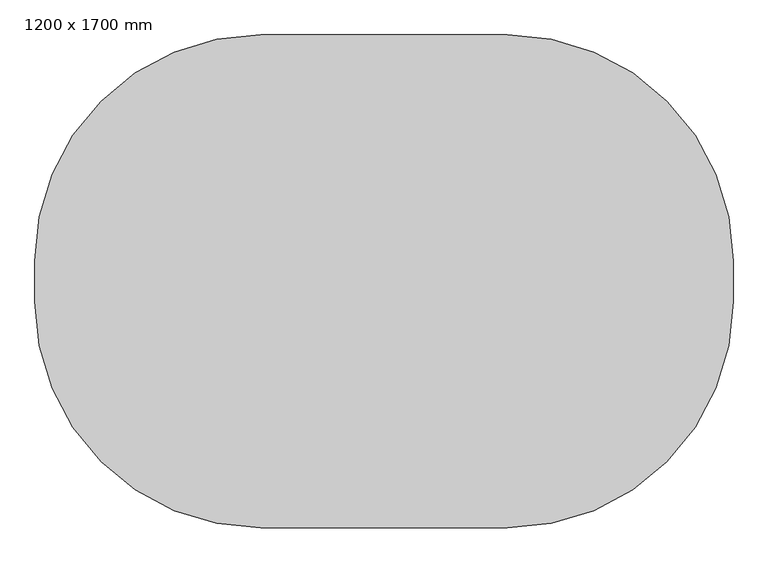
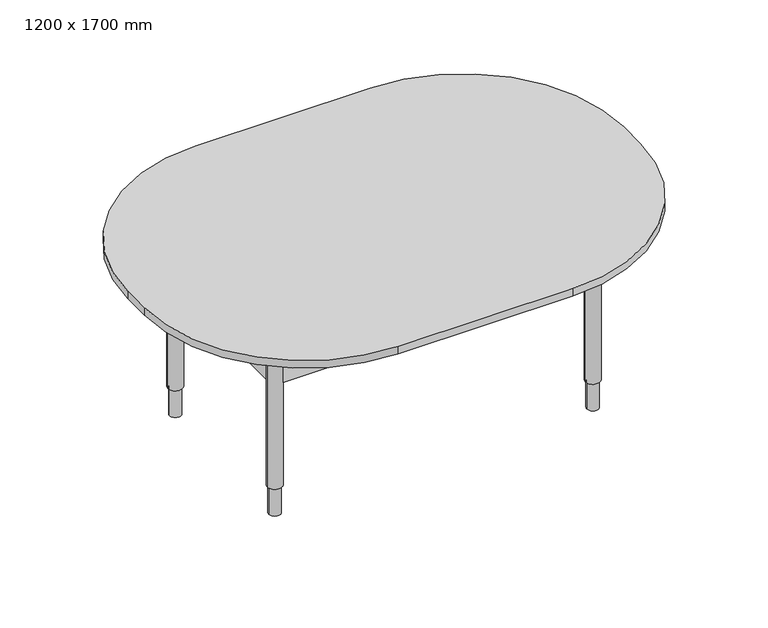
"""IFC4 building model written with IfcOpenShell, lengths in millimetres: furniture geometry, Mesa con Sillas Reuniones : 1200 x 1700 mm."""

import ifcopenshell
import ifcopenshell.guid

model = None  # the IFC model being written
_history = None  # IfcOwnerHistory: only IFC2X3 demands one
_inside = {}  # id of a spatial element -> (the spatial element, [elements in it])
_under = {}  # id of a project, library or spatial element -> (it, [spatial elements below it])
_declared = {}  # id of a project -> (the project, [libraries it declares])
_typed = {}  # id of a type object -> (the type object, [elements of that type])
_made_of = {}  # id of a material, layer set ... -> (it, [elements and type objects made of it])


def new_model(schema):
    """Start an empty IFC model of exactly this schema.

    Asked for "IFC4X3", IfcOpenShell would pick the latest addendum, in which some entities
    have other attributes; the version numbers below select the first issue.
    IFC2X3 requires an IfcOwnerHistory on every rooted entity: one is made here for all.
    """
    global model, _history
    if schema == "IFC4X3":
        model = ifcopenshell.file(schema_version=(4, 3, 0, 0))
    else:
        model = ifcopenshell.file(schema=schema)
    _inside.clear()
    _under.clear()
    _declared.clear()
    _typed.clear()
    _made_of.clear()
    _history = None
    if model.schema == "IFC2X3":
        org = make("IfcOrganization", Name="unknown")
        user = make(
            "IfcPersonAndOrganization",
            ThePerson=make("IfcPerson", FamilyName="unknown"),
            TheOrganization=org,
        )
        app = make(
            "IfcApplication",
            ApplicationDeveloper=org,
            Version="unknown",
            ApplicationFullName="unknown",
            ApplicationIdentifier="unknown",
        )
        _history = make(
            "IfcOwnerHistory",
            OwningUser=user,
            OwningApplication=app,
            ChangeAction="ADDED",
            CreationDate=0,
        )
    return model


def make(cls, **values):
    """One entity of the class cls with the attributes given. An attribute that is None is left unset."""
    return model.create_entity(
        cls, **{name: value for name, value in values.items() if value is not None}
    )


def rooted(cls, **values):
    """An entity with a GlobalId (a new one), such as an element, a storey or a relation."""
    return make(cls, GlobalId=ifcopenshell.guid.new(), OwnerHistory=_history, **values)


def si_unit(unit_type, name, prefix=None):
    """IfcSIUnit, for example si_unit("LENGTHUNIT", "METRE", prefix="MILLI")."""
    return make("IfcSIUnit", UnitType=unit_type, Prefix=prefix, Name=name)


def assignment(units):
    """IfcUnitAssignment: the units of a project."""
    return None if units is None else make("IfcUnitAssignment", Units=units)


def point(xyz):
    """IfcCartesianPoint."""
    return None if xyz is None else make("IfcCartesianPoint", Coordinates=xyz)


def direction(xyz):
    """IfcDirection."""
    return None if xyz is None else make("IfcDirection", DirectionRatios=xyz)


def frame(location, z_axis=None, x_axis=None):
    """IfcAxis2Placement3D, a coordinate frame: its origin and axes. An axis left out is left unset."""
    return make(
        "IfcAxis2Placement3D",
        Location=point(location),
        Axis=direction(z_axis),
        RefDirection=direction(x_axis),
    )


def frame_2d(location, x_axis=None):
    """IfcAxis2Placement2D, a coordinate frame in the plane: its origin and x axis."""
    return make(
        "IfcAxis2Placement2D", Location=point(location), RefDirection=direction(x_axis)
    )


def origin():
    """The frame at (0, 0, 0) with its axes left unset."""
    return frame((0.0, 0.0, 0.0))


def place(relative_to, where):
    """IfcLocalPlacement: puts the frame where relative to a parent placement (None: the world)."""
    return make(
        "IfcLocalPlacement", PlacementRelTo=relative_to, RelativePlacement=where
    )


def context(
    kind, dimensions, precision=None, world=None, true_north=None, identifier=None
):
    """IfcGeometricRepresentationContext, for example the 3D "Model" context."""
    return make(
        "IfcGeometricRepresentationContext",
        ContextIdentifier=identifier,
        ContextType=kind,
        CoordinateSpaceDimension=dimensions,
        Precision=precision,
        WorldCoordinateSystem=world,
        TrueNorth=true_north,
    )


def project(units=None, contexts=None):
    """IfcProject with its units and contexts."""
    return rooted(
        "IfcProject",
        Name="project",
        RepresentationContexts=contexts,
        UnitsInContext=assignment(units),
    )


def spatial(cls, under=None, at=None, **own):
    """A site, building, storey or space (cls), placed at a placement, below another one or the project."""
    s = rooted(cls, ObjectPlacement=at, **own)
    if under is not None:
        _under.setdefault(under.id(), (under, []))[1].append(s)
    return s


def polyline(points):
    """IfcPolyline through the points."""
    return make("IfcPolyline", Points=[point(p) for p in points])


def circle_curve(where, radius):
    """IfcCircle in the frame where."""
    return make("IfcCircle", Position=where, Radius=radius)


def trimmed(basis, trim1, trim2, sense, master):
    """IfcTrimmedCurve: the piece of a basis curve between two trims."""
    return make(
        "IfcTrimmedCurve",
        BasisCurve=basis,
        Trim1=trim1,
        Trim2=trim2,
        SenseAgreement=sense,
        MasterRepresentation=master,
    )


def segment(curve, same_sense, transition):
    """IfcCompositeCurveSegment."""
    return make(
        "IfcCompositeCurveSegment",
        Transition=transition,
        SameSense=same_sense,
        ParentCurve=curve,
    )


def composite_curve(segments, self_intersect=None):
    """IfcCompositeCurve: segments joined end to end."""
    return make("IfcCompositeCurve", Segments=segments, SelfIntersect=self_intersect)


def outline(outer, holes=None, kind="AREA"):
    """IfcArbitraryClosedProfileDef: a profile drawn as a closed curve; with holes, ...WithVoids."""
    if holes is None:
        return make("IfcArbitraryClosedProfileDef", ProfileType=kind, OuterCurve=outer)
    return make(
        "IfcArbitraryProfileDefWithVoids",
        ProfileType=kind,
        OuterCurve=outer,
        InnerCurves=holes,
    )


def extrude(swept, where, along, depth):
    """IfcExtrudedAreaSolid: the profile swept, set in the frame where, extruded along a direction by depth."""
    return make(
        "IfcExtrudedAreaSolid",
        SweptArea=swept,
        Position=where,
        ExtrudedDirection=direction(along),
        Depth=depth,
    )


def faces_of(points, faces, orient=None, outer=None):
    """IfcFace entities. A face is a list of loops; a loop is a list of indices into points, from 0.

    orient and outer hold one flag for each loop. By default every Orientation is true, the
    first loop of a face is its IfcFaceOuterBound and the others are IfcFaceBound.
    """
    made = []
    for i, loops in enumerate(faces):
        bounds = []
        for j, loop in enumerate(loops):
            is_outer = j == 0 if outer is None else outer[i][j]
            bounds.append(
                make(
                    "IfcFaceOuterBound" if is_outer else "IfcFaceBound",
                    Bound=make("IfcPolyLoop", Polygon=[points[k] for k in loop]),
                    Orientation=True if orient is None else orient[i][j],
                )
            )
        made.append(make("IfcFace", Bounds=bounds))
    return made


def faceted_brep(points, faces, orient=None, outer=None, voids=None):
    """IfcFacetedBrep: a solid bounded by flat faces; with voids (closed shells), ...WithVoids."""
    shared = [point(p) for p in points]
    hull = make("IfcClosedShell", CfsFaces=faces_of(shared, faces, orient, outer))
    if voids is None:
        return make("IfcFacetedBrep", Outer=hull)
    return make(
        "IfcFacetedBrepWithVoids",
        Outer=hull,
        Voids=[
            make(cls, CfsFaces=faces_of(shared, fs, o, b)) for cls, fs, o, b in voids
        ],
    )


def shape(context_of_items, identifier, shape_type, items):
    """IfcShapeRepresentation: the items that make up one representation, for example the "Body"."""
    return make(
        "IfcShapeRepresentation",
        ContextOfItems=context_of_items,
        RepresentationIdentifier=identifier,
        RepresentationType=shape_type,
        Items=items,
    )


def source(mapping_origin, context_of_items, identifier, shape_type, items):
    """IfcRepresentationMap: a shape defined once, which mapped items show again and again."""
    return make(
        "IfcRepresentationMap",
        MappingOrigin=mapping_origin,
        MappedRepresentation=shape(context_of_items, identifier, shape_type, items),
    )


def transform(
    local_origin,
    x_axis=None,
    y_axis=None,
    z_axis=None,
    scale=None,
    scale2=None,
    scale3=None,
    uniform=True,
):
    """IfcCartesianTransformationOperator3D, or its non-uniform kind. x_axis, y_axis, z_axis: its Axis1, 2, 3."""
    if uniform:
        return make(
            "IfcCartesianTransformationOperator3D",
            Axis1=direction(x_axis),
            Axis2=direction(y_axis),
            LocalOrigin=point(local_origin),
            Scale=scale,
            Axis3=direction(z_axis),
        )
    return make(
        "IfcCartesianTransformationOperator3DnonUniform",
        Axis1=direction(x_axis),
        Axis2=direction(y_axis),
        LocalOrigin=point(local_origin),
        Scale=scale,
        Axis3=direction(z_axis),
        Scale2=scale2,
        Scale3=scale3,
    )


def mapped(mapping_source, mapping_target):
    """IfcMappedItem: shows the shape of a source again, moved by a transform."""
    return make(
        "IfcMappedItem", MappingSource=mapping_source, MappingTarget=mapping_target
    )


def made_of(thing, what):
    """Note that an element or type object is made of a material, layer set ...; save() writes the relation."""
    if what is not None:
        _made_of.setdefault(what.id(), (what, []))[1].append(thing)
    return thing


def element(
    cls,
    number,
    at=None,
    inside=None,
    cuts=None,
    type_object=None,
    material=None,
    context=None,
    identifier="Body",
    shape_type=None,
    held_by="IfcProductDefinitionShape",
    body=None,
    shapes=None,
    **own,
):
    """One element of the class cls, such as IfcWall. Its Tag is "e" and its number.

    at: its placement. inside: the storey or other place that contains it. cuts: it is an
    opening in that element (IfcRelVoidsElement). A single representation is given by context,
    identifier, shape_type and body (its items); several are given by shapes. held_by: the class
    of the entity that holds the representations. save() writes the other relations.
    """
    e = rooted(cls, Tag="e%d" % number, ObjectPlacement=at, **own)
    if body is not None:
        shapes = [shape(context, identifier, shape_type, body)]
    if shapes is not None:
        e.Representation = make(held_by, Representations=shapes)
    if inside is not None:
        _inside.setdefault(inside.id(), (inside, []))[1].append(e)
    if cuts is not None:
        rooted(
            "IfcRelVoidsElement", RelatingBuildingElement=cuts, RelatedOpeningElement=e
        )
    if type_object is not None:
        _typed.setdefault(type_object.id(), (type_object, []))[1].append(e)
    return made_of(e, material)


def aggregate(whole, parts):
    """IfcRelAggregates: a whole, such as a stair, and the parts it consists of."""
    return rooted("IfcRelAggregates", RelatingObject=whole, RelatedObjects=parts)


def save(model, path):
    """Write the relations noted so far, then the file.

    IfcRelAggregates (storeys below a building ...), IfcRelContainedInSpatialStructure (elements
    in a storey), IfcRelDefinesByType, IfcRelAssociatesMaterial and IfcRelDeclares: one each for
    every whole, place, type object, material and project.
    """
    for whole, parts in _under.values():
        aggregate(whole, parts)
    for where, things in _inside.values():
        rooted(
            "IfcRelContainedInSpatialStructure",
            RelatedElements=things,
            RelatingStructure=where,
        )
    for kind, things in _typed.values():
        rooted("IfcRelDefinesByType", RelatedObjects=things, RelatingType=kind)
    for what, things in _made_of.values():
        rooted("IfcRelAssociatesMaterial", RelatedObjects=things, RelatingMaterial=what)
    for by, libraries in _declared.values():
        rooted("IfcRelDeclares", RelatingContext=by, RelatedDefinitions=libraries)
    model.write(path)


def plane_surface(at):
    """IfcPlane: the flat surface through the origin of the frame at, square to its z axis."""
    return make("IfcPlane", Position=at)


def cylinder_surface(at, radius):
    """IfcCylindricalSurface: all points at the distance radius from the z axis of the frame at."""
    return make("IfcCylindricalSurface", Position=at, Radius=radius)


def advanced_brep(points, edges, surfaces, faces):
    """IfcAdvancedBrep: a solid bounded by faces that lie on surfaces and meet in shared edges.

    An edge is (start, end): straight between two places in points (the first is 0);
    or (start, end, curve); or (start, end, curve, False) where it runs against its curve.
    A face is (place in surfaces, loops), or (place, loops, False) where it looks against
    its surface's normal. A loop lists edges by number (the first is 1), with a minus sign
    where the edge is run from its end to its start. The first loop is the outer one.
    """
    corners = [point(p) for p in points]
    vertices = [make("IfcVertexPoint", VertexGeometry=c) for c in corners]
    made = []
    for start, end, *more in edges:
        made.append(
            make(
                "IfcEdgeCurve",
                EdgeStart=vertices[start],
                EdgeEnd=vertices[end],
                EdgeGeometry=more[0] if more else make("IfcPolyline", Points=[corners[start], corners[end]]),
                SameSense=more[1] if len(more) > 1 else True,
            )
        )
    hull = []
    for where, loops, *sense in faces:
        bounds = []
        for j, loop in enumerate(loops):
            ring = [make("IfcOrientedEdge", EdgeElement=made[abs(k) - 1], Orientation=k > 0) for k in loop]
            bounds.append(
                make(
                    "IfcFaceOuterBound" if j == 0 else "IfcFaceBound",
                    Bound=make("IfcEdgeLoop", EdgeList=ring),
                    Orientation=True,
                )
            )
        hull.append(make("IfcAdvancedFace", Bounds=bounds, FaceSurface=surfaces[where], SameSense=sense[0] if sense else True))
    return make("IfcAdvancedBrep", Outer=make("IfcClosedShell", CfsFaces=hull))


def furniture_1200_x_1700_mm_cef05c01(model_context):
    return source(origin(), model_context, "Body", "SolidModel", [
        extrude(outline(composite_curve([segment(trimmed(circle_curve(frame_2d((831.8078121, -580.0)), 25.0), [point((856.8078121, -580.0))], [point((806.8078121, -580.0))], False, "CARTESIAN"), True, "CONTINUOUS"), segment(trimmed(circle_curve(frame_2d((831.8078121, -580.0)), 25.0), [point((806.8078121, -580.0))], [point((856.8078121, -580.0))], False, "CARTESIAN"), True, "CONTINUOUS")], self_intersect=False)), frame((0.0, 0.0, 658.0), z_axis=(0.0, 0.0, 1.0), x_axis=(1.0, 0.0, 0.0)), (0.0, 0.0, 1.0), 15.0),
        extrude(outline(composite_curve([segment(trimmed(circle_curve(frame_2d((931.8078121, -680.0)), 25.0), [point((956.8078121, -680.0))], [point((906.8078121, -680.0))], False, "CARTESIAN"), True, "CONTINUOUS"), segment(trimmed(circle_curve(frame_2d((931.8078121, -680.0)), 25.0), [point((906.8078121, -680.0))], [point((956.8078121, -680.0))], False, "CARTESIAN"), True, "CONTINUOUS")], self_intersect=False)), frame((0.0, 0.0, 658.0), z_axis=(0.0, 0.0, 1.0), x_axis=(1.0, 0.0, 0.0)), (0.0, 0.0, 1.0), 15.0),
        extrude(outline(composite_curve([segment(trimmed(circle_curve(frame_2d((831.8078121, -780.0)), 25.0), [point((856.8078121, -780.0))], [point((806.8078121, -780.0))], False, "CARTESIAN"), True, "CONTINUOUS"), segment(trimmed(circle_curve(frame_2d((831.8078121, -780.0)), 25.0), [point((806.8078121, -780.0))], [point((856.8078121, -780.0))], False, "CARTESIAN"), True, "CONTINUOUS")], self_intersect=False)), frame((0.0, 0.0, 658.0), z_axis=(0.0, 0.0, 1.0), x_axis=(1.0, 0.0, 0.0)), (0.0, 0.0, 1.0), 15.0),
        extrude(outline(composite_curve([segment(trimmed(circle_curve(frame_2d((731.8078121, -680.0)), 25.0), [point((756.8078121, -680.0))], [point((706.8078121, -680.0))], False, "CARTESIAN"), True, "CONTINUOUS"), segment(trimmed(circle_curve(frame_2d((731.8078121, -680.0)), 25.0), [point((706.8078121, -680.0))], [point((756.8078121, -680.0))], False, "CARTESIAN"), True, "CONTINUOUS")], self_intersect=False)), frame((0.0, 0.0, 658.0), z_axis=(0.0, 0.0, 1.0), x_axis=(1.0, 0.0, 0.0)), (0.0, 0.0, 1.0), 15.0),
        faceted_brep([(726.8078121, -690.0, 635.8867513), (809.7500985, -690.0, 588.0), (821.8078121, -690.0, 588.0), (821.8078121, -690.0, 603.0), (803.7693364, -690.0, 603.0), (736.8078121, -690.0, 641.660254), (736.8078121, -690.0, 658.0), (726.8078121, -690.0, 658.0), (853.8655258, -690.0, 588.0), (936.8078121, -690.0, 635.8867513), (936.8078121, -690.0, 658.0), (926.8078121, -690.0, 658.0), (926.8078121, -690.0, 641.660254), (859.8462879, -690.0, 603.0), (841.8078121, -690.0, 603.0), (841.8078121, -690.0, 588.0), (726.8078121, -670.0, 635.8867513), (726.8078121, -670.0, 658.0), (736.8078121, -670.0, 658.0), (736.8078121, -670.0, 641.660254), (803.7693364, -670.0, 603.0), (821.8078121, -670.0, 603.0), (821.8078121, -670.0, 588.0), (809.7500985, -670.0, 588.0), (859.8462879, -670.0, 603.0), (926.8078121, -670.0, 641.660254), (926.8078121, -670.0, 658.0), (936.8078121, -670.0, 658.0), (936.8078121, -670.0, 635.8867513), (853.8655258, -670.0, 588.0), (841.8078121, -670.0, 588.0), (841.8078121, -670.0, 603.0), (821.8078121, -657.9422863, 588.0), (841.8078121, -657.9422863, 588.0), (841.8078121, -702.0577137, 588.0), (821.8078121, -702.0577137, 588.0), (841.8078121, -651.9615242, 603.0), (821.8078121, -651.9615242, 603.0), (821.8078121, -708.0384758, 603.0), (841.8078121, -708.0384758, 603.0), (841.8078121, -575.0, 635.8867513), (841.8078121, -575.0, 658.0), (841.8078121, -585.0, 658.0), (841.8078121, -585.0, 641.660254), (841.8078121, -775.0, 641.660254), (841.8078121, -775.0, 658.0), (841.8078121, -785.0, 658.0), (841.8078121, -785.0, 635.8867513), (821.8078121, -575.0, 635.8867513), (821.8078121, -585.0, 641.660254), (821.8078121, -585.0, 658.0), (821.8078121, -575.0, 658.0), (821.8078121, -785.0, 635.8867513), (821.8078121, -785.0, 658.0), (821.8078121, -775.0, 658.0), (821.8078121, -775.0, 641.660254)], [[[0, 1, 2, 3, 4, 5, 6, 7]], [[8, 9, 10, 11, 12, 13, 14, 15]], [[16, 17, 18, 19, 20, 21, 22, 23]], [[24, 25, 26, 27, 28, 29, 30, 31]], [[1, 0, 16, 23]], [[1, 23, 22, 32, 33, 30, 29, 8, 15, 34, 35, 2]], [[9, 8, 29, 28]], [[10, 9, 28, 27]], [[11, 10, 27, 26]], [[12, 11, 26, 25]], [[13, 12, 25, 24]], [[13, 24, 31, 36, 37, 21, 20, 4, 3, 38, 39, 14]], [[5, 4, 20, 19]], [[6, 5, 19, 18]], [[7, 6, 18, 17]], [[0, 7, 17, 16]], [[40, 41, 42, 43, 36, 31, 30, 33]], [[39, 44, 45, 46, 47, 34, 15, 14]], [[48, 32, 22, 21, 37, 49, 50, 51]], [[35, 52, 53, 54, 55, 38, 3, 2]], [[41, 40, 48, 51]], [[42, 41, 51, 50]], [[43, 42, 50, 49]], [[36, 43, 49, 37]], [[44, 39, 38, 55]], [[45, 44, 55, 54]], [[46, 45, 54, 53]], [[47, 46, 53, 52]], [[34, 47, 52, 35]], [[40, 33, 32, 48]]]),
        advanced_brep(
        [(811.8078121, -680.0, 0.0), (851.8078121, -680.0, 0.0), (831.8078121, -680.0, 0.0), (811.8078121, -680.0, 100.0), (851.8078121, -680.0, 100.0), (806.8078121, -680.0, 100.0), (856.8078121, -680.0, 100.0), (806.8078121, -680.0, 588.0), (856.8078121, -680.0, 588.0), (831.8078121, -680.0, 588.0)],
        [
            (0, 1, circle_curve(frame((831.8078121, -680.0, 0.0), z_axis=(0.0, 0.0, -1.0), x_axis=(1.0, 0.0, 0.0)), 20.0)),
            (1, 2),
            (2, 0),
            (1, 0, circle_curve(frame((831.8078121, -680.0, 0.0), z_axis=(0.0, 0.0, -1.0), x_axis=(1.0, 0.0, 0.0)), 20.0)),
            (3, 4, circle_curve(frame((831.8078121, -680.0, 100.0), z_axis=(0.0, 0.0, -1.0), x_axis=(1.0, 0.0, 0.0)), 20.0)),
            (4, 1),
            (0, 3),
            (4, 3, circle_curve(frame((831.8078121, -680.0, 100.0), z_axis=(0.0, 0.0, -1.0), x_axis=(1.0, 0.0, 0.0)), 20.0)),
            (5, 6, circle_curve(frame((831.8078121, -680.0, 100.0), z_axis=(0.0, 0.0, -1.0), x_axis=(1.0, 0.0, 0.0)), 25.0)),
            (6, 4),
            (3, 5),
            (6, 5, circle_curve(frame((831.8078121, -680.0, 100.0), z_axis=(0.0, 0.0, -1.0), x_axis=(1.0, 0.0, 0.0)), 25.0)),
            (7, 8, circle_curve(frame((831.8078121, -680.0, 588.0), z_axis=(0.0, 0.0, -1.0), x_axis=(1.0, 0.0, 0.0)), 25.0)),
            (8, 6),
            (5, 7),
            (8, 7, circle_curve(frame((831.8078121, -680.0, 588.0), z_axis=(0.0, 0.0, -1.0), x_axis=(1.0, 0.0, 0.0)), 25.0)),
            (9, 8),
            (7, 9),
        ],
        [
            plane_surface(frame((831.8078121, -680.0, 0.0), z_axis=(0.0, 0.0, -1.0), x_axis=(1.0, 0.0, 0.0))),
            cylinder_surface(frame((831.8078121, -680.0, 968.0), z_axis=(0.0, 0.0, 1.0), x_axis=(1.0, 0.0, 0.0)), 20.0),
            plane_surface(frame((831.8078121, -680.0, 100.0), z_axis=(0.0, 0.0, -1.0), x_axis=(1.0, 0.0, 0.0))),
            cylinder_surface(frame((831.8078121, -680.0, 968.0), z_axis=(0.0, 0.0, 1.0), x_axis=(1.0, 0.0, 0.0)), 25.0),
            plane_surface(frame((831.8078121, -680.0, 588.0), z_axis=(0.0, 0.0, 1.0), x_axis=(1.0, 0.0, 0.0))),
        ],
        [
            (0, [[1, 2, 3]]),
            (0, [[4, -3, -2]]),
            (1, [[5, 6, -1, 7]]),
            (1, [[8, -7, -4, -6]]),
            (2, [[9, 10, -5, 11]]),
            (2, [[12, -11, -8, -10]]),
            (3, [[13, 14, -9, 15]]),
            (3, [[16, -15, -12, -14]]),
            (4, [[17, -13, 18]]),
            (4, [[-18, -16, -17]]),
        ],
    ),
        extrude(outline(composite_curve([segment(trimmed(circle_curve(frame_2d((-258.1921879, -580.0)), 25.0), [point((-233.1921879, -580.0))], [point((-283.1921879, -580.0))], False, "CARTESIAN"), True, "CONTINUOUS"), segment(trimmed(circle_curve(frame_2d((-258.1921879, -580.0)), 25.0), [point((-283.1921879, -580.0))], [point((-233.1921879, -580.0))], False, "CARTESIAN"), True, "CONTINUOUS")], self_intersect=False)), frame((0.0, 0.0, 658.0), z_axis=(0.0, 0.0, 1.0), x_axis=(1.0, 0.0, 0.0)), (0.0, 0.0, 1.0), 15.0),
        extrude(outline(composite_curve([segment(trimmed(circle_curve(frame_2d((-158.1921879, -680.0)), 25.0), [point((-133.1921879, -680.0))], [point((-183.1921879, -680.0))], False, "CARTESIAN"), True, "CONTINUOUS"), segment(trimmed(circle_curve(frame_2d((-158.1921879, -680.0)), 25.0), [point((-183.1921879, -680.0))], [point((-133.1921879, -680.0))], False, "CARTESIAN"), True, "CONTINUOUS")], self_intersect=False)), frame((0.0, 0.0, 658.0), z_axis=(0.0, 0.0, 1.0), x_axis=(1.0, 0.0, 0.0)), (0.0, 0.0, 1.0), 15.0),
        extrude(outline(composite_curve([segment(trimmed(circle_curve(frame_2d((-258.1921879, -780.0)), 25.0), [point((-233.1921879, -780.0))], [point((-283.1921879, -780.0))], False, "CARTESIAN"), True, "CONTINUOUS"), segment(trimmed(circle_curve(frame_2d((-258.1921879, -780.0)), 25.0), [point((-283.1921879, -780.0))], [point((-233.1921879, -780.0))], False, "CARTESIAN"), True, "CONTINUOUS")], self_intersect=False)), frame((0.0, 0.0, 658.0), z_axis=(0.0, 0.0, 1.0), x_axis=(1.0, 0.0, 0.0)), (0.0, 0.0, 1.0), 15.0),
        extrude(outline(composite_curve([segment(trimmed(circle_curve(frame_2d((-358.1921879, -680.0)), 25.0), [point((-333.1921879, -680.0))], [point((-383.1921879, -680.0))], False, "CARTESIAN"), True, "CONTINUOUS"), segment(trimmed(circle_curve(frame_2d((-358.1921879, -680.0)), 25.0), [point((-383.1921879, -680.0))], [point((-333.1921879, -680.0))], False, "CARTESIAN"), True, "CONTINUOUS")], self_intersect=False)), frame((0.0, 0.0, 658.0), z_axis=(0.0, 0.0, 1.0), x_axis=(1.0, 0.0, 0.0)), (0.0, 0.0, 1.0), 15.0),
        faceted_brep([(-363.1921879, -690.0, 635.8867513), (-280.2499015, -690.0, 588.0), (-268.1921879, -690.0, 588.0), (-268.1921879, -690.0, 603.0), (-286.2306636, -690.0, 603.0), (-353.1921879, -690.0, 641.660254), (-353.1921879, -690.0, 658.0), (-363.1921879, -690.0, 658.0), (-236.1344742, -690.0, 588.0), (-153.1921879, -690.0, 635.8867513), (-153.1921879, -690.0, 658.0), (-163.1921879, -690.0, 658.0), (-163.1921879, -690.0, 641.660254), (-230.1537121, -690.0, 603.0), (-248.1921879, -690.0, 603.0), (-248.1921879, -690.0, 588.0), (-363.1921879, -670.0, 635.8867513), (-363.1921879, -670.0, 658.0), (-353.1921879, -670.0, 658.0), (-353.1921879, -670.0, 641.660254), (-286.2306636, -670.0, 603.0), (-268.1921879, -670.0, 603.0), (-268.1921879, -670.0, 588.0), (-280.2499015, -670.0, 588.0), (-230.1537121, -670.0, 603.0), (-163.1921879, -670.0, 641.660254), (-163.1921879, -670.0, 658.0), (-153.1921879, -670.0, 658.0), (-153.1921879, -670.0, 635.8867513), (-236.1344742, -670.0, 588.0), (-248.1921879, -670.0, 588.0), (-248.1921879, -670.0, 603.0), (-268.1921879, -657.9422863, 588.0), (-248.1921879, -657.9422863, 588.0), (-248.1921879, -702.0577137, 588.0), (-268.1921879, -702.0577137, 588.0), (-248.1921879, -651.9615242, 603.0), (-268.1921879, -651.9615242, 603.0), (-268.1921879, -708.0384758, 603.0), (-248.1921879, -708.0384758, 603.0), (-248.1921879, -575.0, 635.8867513), (-248.1921879, -575.0, 658.0), (-248.1921879, -585.0, 658.0), (-248.1921879, -585.0, 641.660254), (-248.1921879, -775.0, 641.660254), (-248.1921879, -775.0, 658.0), (-248.1921879, -785.0, 658.0), (-248.1921879, -785.0, 635.8867513), (-268.1921879, -575.0, 635.8867513), (-268.1921879, -585.0, 641.660254), (-268.1921879, -585.0, 658.0), (-268.1921879, -575.0, 658.0), (-268.1921879, -785.0, 635.8867513), (-268.1921879, -785.0, 658.0), (-268.1921879, -775.0, 658.0), (-268.1921879, -775.0, 641.660254)], [[[0, 1, 2, 3, 4, 5, 6, 7]], [[8, 9, 10, 11, 12, 13, 14, 15]], [[16, 17, 18, 19, 20, 21, 22, 23]], [[24, 25, 26, 27, 28, 29, 30, 31]], [[1, 0, 16, 23]], [[1, 23, 22, 32, 33, 30, 29, 8, 15, 34, 35, 2]], [[9, 8, 29, 28]], [[10, 9, 28, 27]], [[11, 10, 27, 26]], [[12, 11, 26, 25]], [[13, 12, 25, 24]], [[13, 24, 31, 36, 37, 21, 20, 4, 3, 38, 39, 14]], [[5, 4, 20, 19]], [[6, 5, 19, 18]], [[7, 6, 18, 17]], [[0, 7, 17, 16]], [[40, 41, 42, 43, 36, 31, 30, 33]], [[39, 44, 45, 46, 47, 34, 15, 14]], [[48, 32, 22, 21, 37, 49, 50, 51]], [[35, 52, 53, 54, 55, 38, 3, 2]], [[41, 40, 48, 51]], [[42, 41, 51, 50]], [[43, 42, 50, 49]], [[36, 43, 49, 37]], [[44, 39, 38, 55]], [[45, 44, 55, 54]], [[46, 45, 54, 53]], [[47, 46, 53, 52]], [[34, 47, 52, 35]], [[40, 33, 32, 48]]]),
        advanced_brep(
        [(-278.1921879, -680.0, 0.0), (-238.1921879, -680.0, 0.0), (-258.1921879, -680.0, 0.0), (-278.1921879, -680.0, 100.0), (-238.1921879, -680.0, 100.0), (-283.1921879, -680.0, 100.0), (-233.1921879, -680.0, 100.0), (-283.1921879, -680.0, 588.0), (-233.1921879, -680.0, 588.0), (-258.1921879, -680.0, 588.0)],
        [
            (0, 1, circle_curve(frame((-258.1921879, -680.0, 0.0), z_axis=(0.0, 0.0, -1.0), x_axis=(1.0, 0.0, 0.0)), 20.0)),
            (1, 2),
            (2, 0),
            (1, 0, circle_curve(frame((-258.1921879, -680.0, 0.0), z_axis=(0.0, 0.0, -1.0), x_axis=(1.0, 0.0, 0.0)), 20.0)),
            (3, 4, circle_curve(frame((-258.1921879, -680.0, 100.0), z_axis=(0.0, 0.0, -1.0), x_axis=(1.0, 0.0, 0.0)), 20.0)),
            (4, 1),
            (0, 3),
            (4, 3, circle_curve(frame((-258.1921879, -680.0, 100.0), z_axis=(0.0, 0.0, -1.0), x_axis=(1.0, 0.0, 0.0)), 20.0)),
            (5, 6, circle_curve(frame((-258.1921879, -680.0, 100.0), z_axis=(0.0, 0.0, -1.0), x_axis=(1.0, 0.0, 0.0)), 25.0)),
            (6, 4),
            (3, 5),
            (6, 5, circle_curve(frame((-258.1921879, -680.0, 100.0), z_axis=(0.0, 0.0, -1.0), x_axis=(1.0, 0.0, 0.0)), 25.0)),
            (7, 8, circle_curve(frame((-258.1921879, -680.0, 588.0), z_axis=(0.0, 0.0, -1.0), x_axis=(1.0, 0.0, 0.0)), 25.0)),
            (8, 6),
            (5, 7),
            (8, 7, circle_curve(frame((-258.1921879, -680.0, 588.0), z_axis=(0.0, 0.0, -1.0), x_axis=(1.0, 0.0, 0.0)), 25.0)),
            (9, 8),
            (7, 9),
        ],
        [
            plane_surface(frame((-258.1921879, -680.0, 0.0), z_axis=(0.0, 0.0, -1.0), x_axis=(1.0, 0.0, 0.0))),
            cylinder_surface(frame((-258.1921879, -680.0, 968.0), z_axis=(0.0, 0.0, 1.0), x_axis=(1.0, 0.0, 0.0)), 20.0),
            plane_surface(frame((-258.1921879, -680.0, 100.0), z_axis=(0.0, 0.0, -1.0), x_axis=(1.0, 0.0, 0.0))),
            cylinder_surface(frame((-258.1921879, -680.0, 968.0), z_axis=(0.0, 0.0, 1.0), x_axis=(1.0, 0.0, 0.0)), 25.0),
            plane_surface(frame((-258.1921879, -680.0, 588.0), z_axis=(0.0, 0.0, 1.0), x_axis=(1.0, 0.0, 0.0))),
        ],
        [
            (0, [[1, 2, 3]]),
            (0, [[4, -3, -2]]),
            (1, [[5, 6, -1, 7]]),
            (1, [[8, -7, -4, -6]]),
            (2, [[9, 10, -5, 11]]),
            (2, [[12, -11, -8, -10]]),
            (3, [[13, 14, -9, 15]]),
            (3, [[16, -15, -12, -14]]),
            (4, [[17, -13, 18]]),
            (4, [[-18, -16, -17]]),
        ],
    ),
        extrude(outline(composite_curve([segment(trimmed(circle_curve(frame_2d((831.8078121, 10.0)), 25.0), [point((856.8078121, 10.0))], [point((806.8078121, 10.0))], False, "CARTESIAN"), True, "CONTINUOUS"), segment(trimmed(circle_curve(frame_2d((831.8078121, 10.0)), 25.0), [point((806.8078121, 10.0))], [point((856.8078121, 10.0))], False, "CARTESIAN"), True, "CONTINUOUS")], self_intersect=False)), frame((0.0, 0.0, 658.0), z_axis=(0.0, 0.0, 1.0), x_axis=(1.0, 0.0, 0.0)), (0.0, 0.0, 1.0), 15.0),
        extrude(outline(composite_curve([segment(trimmed(circle_curve(frame_2d((931.8078121, -90.0)), 25.0), [point((956.8078121, -90.0))], [point((906.8078121, -90.0))], False, "CARTESIAN"), True, "CONTINUOUS"), segment(trimmed(circle_curve(frame_2d((931.8078121, -90.0)), 25.0), [point((906.8078121, -90.0))], [point((956.8078121, -90.0))], False, "CARTESIAN"), True, "CONTINUOUS")], self_intersect=False)), frame((0.0, 0.0, 658.0), z_axis=(0.0, 0.0, 1.0), x_axis=(1.0, 0.0, 0.0)), (0.0, 0.0, 1.0), 15.0),
        extrude(outline(composite_curve([segment(trimmed(circle_curve(frame_2d((831.8078121, -190.0)), 25.0), [point((856.8078121, -190.0))], [point((806.8078121, -190.0))], False, "CARTESIAN"), True, "CONTINUOUS"), segment(trimmed(circle_curve(frame_2d((831.8078121, -190.0)), 25.0), [point((806.8078121, -190.0))], [point((856.8078121, -190.0))], False, "CARTESIAN"), True, "CONTINUOUS")], self_intersect=False)), frame((0.0, 0.0, 658.0), z_axis=(0.0, 0.0, 1.0), x_axis=(1.0, 0.0, 0.0)), (0.0, 0.0, 1.0), 15.0),
        extrude(outline(composite_curve([segment(trimmed(circle_curve(frame_2d((731.8078121, -90.0)), 25.0), [point((756.8078121, -90.0))], [point((706.8078121, -90.0))], False, "CARTESIAN"), True, "CONTINUOUS"), segment(trimmed(circle_curve(frame_2d((731.8078121, -90.0)), 25.0), [point((706.8078121, -90.0))], [point((756.8078121, -90.0))], False, "CARTESIAN"), True, "CONTINUOUS")], self_intersect=False)), frame((0.0, 0.0, 658.0), z_axis=(0.0, 0.0, 1.0), x_axis=(1.0, 0.0, 0.0)), (0.0, 0.0, 1.0), 15.0),
        faceted_brep([(726.8078121, -100.0, 635.8867513), (809.7500985, -100.0, 588.0), (821.8078121, -100.0, 588.0), (821.8078121, -100.0, 603.0), (803.7693364, -100.0, 603.0), (736.8078121, -100.0, 641.660254), (736.8078121, -100.0, 658.0), (726.8078121, -100.0, 658.0), (853.8655258, -100.0, 588.0), (936.8078121, -100.0, 635.8867513), (936.8078121, -100.0, 658.0), (926.8078121, -100.0, 658.0), (926.8078121, -100.0, 641.660254), (859.8462879, -100.0, 603.0), (841.8078121, -100.0, 603.0), (841.8078121, -100.0, 588.0), (726.8078121, -80.0, 635.8867513), (726.8078121, -80.0, 658.0), (736.8078121, -80.0, 658.0), (736.8078121, -80.0, 641.660254), (803.7693364, -80.0, 603.0), (821.8078121, -80.0, 603.0), (821.8078121, -80.0, 588.0), (809.7500985, -80.0, 588.0), (859.8462879, -80.0, 603.0), (926.8078121, -80.0, 641.660254), (926.8078121, -80.0, 658.0), (936.8078121, -80.0, 658.0), (936.8078121, -80.0, 635.8867513), (853.8655258, -80.0, 588.0), (841.8078121, -80.0, 588.0), (841.8078121, -80.0, 603.0), (821.8078121, -67.9422863, 588.0), (841.8078121, -67.9422863, 588.0), (841.8078121, -112.0577137, 588.0), (821.8078121, -112.0577137, 588.0), (841.8078121, -61.9615242, 603.0), (821.8078121, -61.9615242, 603.0), (821.8078121, -118.0384758, 603.0), (841.8078121, -118.0384758, 603.0), (841.8078121, 15.0, 635.8867513), (841.8078121, 15.0, 658.0), (841.8078121, 5.0, 658.0), (841.8078121, 5.0, 641.660254), (841.8078121, -185.0, 641.660254), (841.8078121, -185.0, 658.0), (841.8078121, -195.0, 658.0), (841.8078121, -195.0, 635.8867513), (821.8078121, 15.0, 635.8867513), (821.8078121, 5.0, 641.660254), (821.8078121, 5.0, 658.0), (821.8078121, 15.0, 658.0), (821.8078121, -195.0, 635.8867513), (821.8078121, -195.0, 658.0), (821.8078121, -185.0, 658.0), (821.8078121, -185.0, 641.660254)], [[[0, 1, 2, 3, 4, 5, 6, 7]], [[8, 9, 10, 11, 12, 13, 14, 15]], [[16, 17, 18, 19, 20, 21, 22, 23]], [[24, 25, 26, 27, 28, 29, 30, 31]], [[1, 0, 16, 23]], [[1, 23, 22, 32, 33, 30, 29, 8, 15, 34, 35, 2]], [[9, 8, 29, 28]], [[10, 9, 28, 27]], [[11, 10, 27, 26]], [[12, 11, 26, 25]], [[13, 12, 25, 24]], [[13, 24, 31, 36, 37, 21, 20, 4, 3, 38, 39, 14]], [[5, 4, 20, 19]], [[6, 5, 19, 18]], [[7, 6, 18, 17]], [[0, 7, 17, 16]], [[40, 41, 42, 43, 36, 31, 30, 33]], [[39, 44, 45, 46, 47, 34, 15, 14]], [[48, 32, 22, 21, 37, 49, 50, 51]], [[35, 52, 53, 54, 55, 38, 3, 2]], [[41, 40, 48, 51]], [[42, 41, 51, 50]], [[43, 42, 50, 49]], [[36, 43, 49, 37]], [[44, 39, 38, 55]], [[45, 44, 55, 54]], [[46, 45, 54, 53]], [[47, 46, 53, 52]], [[34, 47, 52, 35]], [[40, 33, 32, 48]]]),
        advanced_brep(
        [(811.8078121, -90.0, 0.0), (851.8078121, -90.0, 0.0), (831.8078121, -90.0, 0.0), (811.8078121, -90.0, 100.0), (851.8078121, -90.0, 100.0), (806.8078121, -90.0, 100.0), (856.8078121, -90.0, 100.0), (806.8078121, -90.0, 588.0), (856.8078121, -90.0, 588.0), (831.8078121, -90.0, 588.0)],
        [
            (0, 1, circle_curve(frame((831.8078121, -90.0, 0.0), z_axis=(0.0, 0.0, -1.0), x_axis=(1.0, 0.0, 0.0)), 20.0)),
            (1, 2),
            (2, 0),
            (1, 0, circle_curve(frame((831.8078121, -90.0, 0.0), z_axis=(0.0, 0.0, -1.0), x_axis=(1.0, 0.0, 0.0)), 20.0)),
            (3, 4, circle_curve(frame((831.8078121, -90.0, 100.0), z_axis=(0.0, 0.0, -1.0), x_axis=(1.0, 0.0, 0.0)), 20.0)),
            (4, 1),
            (0, 3),
            (4, 3, circle_curve(frame((831.8078121, -90.0, 100.0), z_axis=(0.0, 0.0, -1.0), x_axis=(1.0, 0.0, 0.0)), 20.0)),
            (5, 6, circle_curve(frame((831.8078121, -90.0, 100.0), z_axis=(0.0, 0.0, -1.0), x_axis=(1.0, 0.0, 0.0)), 25.0)),
            (6, 4),
            (3, 5),
            (6, 5, circle_curve(frame((831.8078121, -90.0, 100.0), z_axis=(0.0, 0.0, -1.0), x_axis=(1.0, 0.0, 0.0)), 25.0)),
            (7, 8, circle_curve(frame((831.8078121, -90.0, 588.0), z_axis=(0.0, 0.0, -1.0), x_axis=(1.0, 0.0, 0.0)), 25.0)),
            (8, 6),
            (5, 7),
            (8, 7, circle_curve(frame((831.8078121, -90.0, 588.0), z_axis=(0.0, 0.0, -1.0), x_axis=(1.0, 0.0, 0.0)), 25.0)),
            (9, 8),
            (7, 9),
        ],
        [
            plane_surface(frame((831.8078121, -90.0, 0.0), z_axis=(0.0, 0.0, -1.0), x_axis=(1.0, 0.0, 0.0))),
            cylinder_surface(frame((831.8078121, -90.0, 968.0), z_axis=(0.0, 0.0, 1.0), x_axis=(1.0, 0.0, 0.0)), 20.0),
            plane_surface(frame((831.8078121, -90.0, 100.0), z_axis=(0.0, 0.0, -1.0), x_axis=(1.0, 0.0, 0.0))),
            cylinder_surface(frame((831.8078121, -90.0, 968.0), z_axis=(0.0, 0.0, 1.0), x_axis=(1.0, 0.0, 0.0)), 25.0),
            plane_surface(frame((831.8078121, -90.0, 588.0), z_axis=(0.0, 0.0, 1.0), x_axis=(1.0, 0.0, 0.0))),
        ],
        [
            (0, [[1, 2, 3]]),
            (0, [[4, -3, -2]]),
            (1, [[5, 6, -1, 7]]),
            (1, [[8, -7, -4, -6]]),
            (2, [[9, 10, -5, 11]]),
            (2, [[12, -11, -8, -10]]),
            (3, [[13, 14, -9, 15]]),
            (3, [[16, -15, -12, -14]]),
            (4, [[17, -13, 18]]),
            (4, [[-18, -16, -17]]),
        ],
    ),
        extrude(outline(composite_curve([segment(trimmed(circle_curve(frame_2d((-258.1921879, 10.0)), 25.0), [point((-233.1921879, 10.0))], [point((-283.1921879, 10.0))], False, "CARTESIAN"), True, "CONTINUOUS"), segment(trimmed(circle_curve(frame_2d((-258.1921879, 10.0)), 25.0), [point((-283.1921879, 10.0))], [point((-233.1921879, 10.0))], False, "CARTESIAN"), True, "CONTINUOUS")], self_intersect=False)), frame((0.0, 0.0, 658.0), z_axis=(0.0, 0.0, 1.0), x_axis=(1.0, 0.0, 0.0)), (0.0, 0.0, 1.0), 15.0),
        extrude(outline(composite_curve([segment(trimmed(circle_curve(frame_2d((-158.1921879, -90.0)), 25.0), [point((-133.1921879, -90.0))], [point((-183.1921879, -90.0))], False, "CARTESIAN"), True, "CONTINUOUS"), segment(trimmed(circle_curve(frame_2d((-158.1921879, -90.0)), 25.0), [point((-183.1921879, -90.0))], [point((-133.1921879, -90.0))], False, "CARTESIAN"), True, "CONTINUOUS")], self_intersect=False)), frame((0.0, 0.0, 658.0), z_axis=(0.0, 0.0, 1.0), x_axis=(1.0, 0.0, 0.0)), (0.0, 0.0, 1.0), 15.0),
        extrude(outline(composite_curve([segment(trimmed(circle_curve(frame_2d((-258.1921879, -190.0)), 25.0), [point((-233.1921879, -190.0))], [point((-283.1921879, -190.0))], False, "CARTESIAN"), True, "CONTINUOUS"), segment(trimmed(circle_curve(frame_2d((-258.1921879, -190.0)), 25.0), [point((-283.1921879, -190.0))], [point((-233.1921879, -190.0))], False, "CARTESIAN"), True, "CONTINUOUS")], self_intersect=False)), frame((0.0, 0.0, 658.0), z_axis=(0.0, 0.0, 1.0), x_axis=(1.0, 0.0, 0.0)), (0.0, 0.0, 1.0), 15.0),
        extrude(outline(composite_curve([segment(trimmed(circle_curve(frame_2d((-358.1921879, -90.0)), 25.0), [point((-333.1921879, -90.0))], [point((-383.1921879, -90.0))], False, "CARTESIAN"), True, "CONTINUOUS"), segment(trimmed(circle_curve(frame_2d((-358.1921879, -90.0)), 25.0), [point((-383.1921879, -90.0))], [point((-333.1921879, -90.0))], False, "CARTESIAN"), True, "CONTINUOUS")], self_intersect=False)), frame((0.0, 0.0, 658.0), z_axis=(0.0, 0.0, 1.0), x_axis=(1.0, 0.0, 0.0)), (0.0, 0.0, 1.0), 15.0),
        faceted_brep([(-363.1921879, -100.0, 635.8867513), (-280.2499015, -100.0, 588.0), (-268.1921879, -100.0, 588.0), (-268.1921879, -100.0, 603.0), (-286.2306636, -100.0, 603.0), (-353.1921879, -100.0, 641.660254), (-353.1921879, -100.0, 658.0), (-363.1921879, -100.0, 658.0), (-236.1344742, -100.0, 588.0), (-153.1921879, -100.0, 635.8867513), (-153.1921879, -100.0, 658.0), (-163.1921879, -100.0, 658.0), (-163.1921879, -100.0, 641.660254), (-230.1537121, -100.0, 603.0), (-248.1921879, -100.0, 603.0), (-248.1921879, -100.0, 588.0), (-363.1921879, -80.0, 635.8867513), (-363.1921879, -80.0, 658.0), (-353.1921879, -80.0, 658.0), (-353.1921879, -80.0, 641.660254), (-286.2306636, -80.0, 603.0), (-268.1921879, -80.0, 603.0), (-268.1921879, -80.0, 588.0), (-280.2499015, -80.0, 588.0), (-230.1537121, -80.0, 603.0), (-163.1921879, -80.0, 641.660254), (-163.1921879, -80.0, 658.0), (-153.1921879, -80.0, 658.0), (-153.1921879, -80.0, 635.8867513), (-236.1344742, -80.0, 588.0), (-248.1921879, -80.0, 588.0), (-248.1921879, -80.0, 603.0), (-268.1921879, -67.9422863, 588.0), (-248.1921879, -67.9422863, 588.0), (-248.1921879, -112.0577137, 588.0), (-268.1921879, -112.0577137, 588.0), (-248.1921879, -61.9615242, 603.0), (-268.1921879, -61.9615242, 603.0), (-268.1921879, -118.0384758, 603.0), (-248.1921879, -118.0384758, 603.0), (-248.1921879, 15.0, 635.8867513), (-248.1921879, 15.0, 658.0), (-248.1921879, 5.0, 658.0), (-248.1921879, 5.0, 641.660254), (-248.1921879, -185.0, 641.660254), (-248.1921879, -185.0, 658.0), (-248.1921879, -195.0, 658.0), (-248.1921879, -195.0, 635.8867513), (-268.1921879, 15.0, 635.8867513), (-268.1921879, 5.0, 641.660254), (-268.1921879, 5.0, 658.0), (-268.1921879, 15.0, 658.0), (-268.1921879, -195.0, 635.8867513), (-268.1921879, -195.0, 658.0), (-268.1921879, -185.0, 658.0), (-268.1921879, -185.0, 641.660254)], [[[0, 1, 2, 3, 4, 5, 6, 7]], [[8, 9, 10, 11, 12, 13, 14, 15]], [[16, 17, 18, 19, 20, 21, 22, 23]], [[24, 25, 26, 27, 28, 29, 30, 31]], [[1, 0, 16, 23]], [[1, 23, 22, 32, 33, 30, 29, 8, 15, 34, 35, 2]], [[9, 8, 29, 28]], [[10, 9, 28, 27]], [[11, 10, 27, 26]], [[12, 11, 26, 25]], [[13, 12, 25, 24]], [[13, 24, 31, 36, 37, 21, 20, 4, 3, 38, 39, 14]], [[5, 4, 20, 19]], [[6, 5, 19, 18]], [[7, 6, 18, 17]], [[0, 7, 17, 16]], [[40, 41, 42, 43, 36, 31, 30, 33]], [[39, 44, 45, 46, 47, 34, 15, 14]], [[48, 32, 22, 21, 37, 49, 50, 51]], [[35, 52, 53, 54, 55, 38, 3, 2]], [[41, 40, 48, 51]], [[42, 41, 51, 50]], [[43, 42, 50, 49]], [[36, 43, 49, 37]], [[44, 39, 38, 55]], [[45, 44, 55, 54]], [[46, 45, 54, 53]], [[47, 46, 53, 52]], [[34, 47, 52, 35]], [[40, 33, 32, 48]]]),
        advanced_brep(
        [(-278.1921879, -90.0, 0.0), (-238.1921879, -90.0, 0.0), (-258.1921879, -90.0, 0.0), (-278.1921879, -90.0, 100.0), (-238.1921879, -90.0, 100.0), (-283.1921879, -90.0, 100.0), (-233.1921879, -90.0, 100.0), (-283.1921879, -90.0, 588.0), (-233.1921879, -90.0, 588.0), (-258.1921879, -90.0, 588.0)],
        [
            (0, 1, circle_curve(frame((-258.1921879, -90.0, 0.0), z_axis=(0.0, 0.0, -1.0), x_axis=(1.0, 0.0, 0.0)), 20.0)),
            (1, 2),
            (2, 0),
            (1, 0, circle_curve(frame((-258.1921879, -90.0, 0.0), z_axis=(0.0, 0.0, -1.0), x_axis=(1.0, 0.0, 0.0)), 20.0)),
            (3, 4, circle_curve(frame((-258.1921879, -90.0, 100.0), z_axis=(0.0, 0.0, -1.0), x_axis=(1.0, 0.0, 0.0)), 20.0)),
            (4, 1),
            (0, 3),
            (4, 3, circle_curve(frame((-258.1921879, -90.0, 100.0), z_axis=(0.0, 0.0, -1.0), x_axis=(1.0, 0.0, 0.0)), 20.0)),
            (5, 6, circle_curve(frame((-258.1921879, -90.0, 100.0), z_axis=(0.0, 0.0, -1.0), x_axis=(1.0, 0.0, 0.0)), 25.0)),
            (6, 4),
            (3, 5),
            (6, 5, circle_curve(frame((-258.1921879, -90.0, 100.0), z_axis=(0.0, 0.0, -1.0), x_axis=(1.0, 0.0, 0.0)), 25.0)),
            (7, 8, circle_curve(frame((-258.1921879, -90.0, 588.0), z_axis=(0.0, 0.0, -1.0), x_axis=(1.0, 0.0, 0.0)), 25.0)),
            (8, 6),
            (5, 7),
            (8, 7, circle_curve(frame((-258.1921879, -90.0, 588.0), z_axis=(0.0, 0.0, -1.0), x_axis=(1.0, 0.0, 0.0)), 25.0)),
            (9, 8),
            (7, 9),
        ],
        [
            plane_surface(frame((-258.1921879, -90.0, 0.0), z_axis=(0.0, 0.0, -1.0), x_axis=(1.0, 0.0, 0.0))),
            cylinder_surface(frame((-258.1921879, -90.0, 968.0), z_axis=(0.0, 0.0, 1.0), x_axis=(1.0, 0.0, 0.0)), 20.0),
            plane_surface(frame((-258.1921879, -90.0, 100.0), z_axis=(0.0, 0.0, -1.0), x_axis=(1.0, 0.0, 0.0))),
            cylinder_surface(frame((-258.1921879, -90.0, 968.0), z_axis=(0.0, 0.0, 1.0), x_axis=(1.0, 0.0, 0.0)), 25.0),
            plane_surface(frame((-258.1921879, -90.0, 588.0), z_axis=(0.0, 0.0, 1.0), x_axis=(1.0, 0.0, 0.0))),
        ],
        [
            (0, [[1, 2, 3]]),
            (0, [[4, -3, -2]]),
            (1, [[5, 6, -1, 7]]),
            (1, [[8, -7, -4, -6]]),
            (2, [[9, 10, -5, 11]]),
            (2, [[12, -11, -8, -10]]),
            (3, [[13, 14, -9, 15]]),
            (3, [[16, -15, -12, -14]]),
            (4, [[17, -13, 18]]),
            (4, [[-18, -16, -17]]),
        ],
    ),
        extrude(outline(polyline([(846.8078121, -695.0), (-273.1921879, -695.0), (-273.1921879, -75.0), (846.8078121, -75.0), (846.8078121, -695.0)]), holes=[polyline([(816.8078121, -105.0), (-243.1921879, -105.0), (-243.1921879, -665.0), (816.8078121, -665.0), (816.8078121, -105.0)])]), frame((0.0, 0.0, 473.0), z_axis=(0.0, 0.0, 1.0), x_axis=(1.0, 0.0, 0.0)), (0.0, 0.0, 1.0), 100.0),
        extrude(outline(composite_curve([segment(trimmed(circle_curve(frame_2d((586.8078121, -335.0)), 550.0), [point((586.8078121, 215.0))], [point((1136.8078121, -335.0))], False, "CARTESIAN"), True, "CONTINUOUS"), segment(polyline([(1136.8078121, -335.0), (1136.8078121, -435.0)]), True, "CONTINUOUS"), segment(trimmed(circle_curve(frame_2d((586.8078121, -435.0)), 550.0), [point((1136.8078121, -435.0))], [point((586.8078121, -985.0))], False, "CARTESIAN"), True, "CONTINUOUS"), segment(polyline([(586.8078121, -985.0), (-13.1921879, -985.0)]), True, "CONTINUOUS"), segment(trimmed(circle_curve(frame_2d((-13.1921879, -435.0)), 550.0), [point((-13.1921879, -985.0))], [point((-563.1921879, -435.0))], False, "CARTESIAN"), True, "CONTINUOUS"), segment(polyline([(-563.1921879, -435.0), (-563.1921879, -335.0)]), True, "CONTINUOUS"), segment(trimmed(circle_curve(frame_2d((-13.1921879, -335.0)), 550.0), [point((-563.1921879, -335.0))], [point((-13.1921879, 215.0))], False, "CARTESIAN"), True, "CONTINUOUS"), segment(polyline([(-13.1921879, 215.0), (586.8078121, 215.0)]), True, "CONTINUOUS")], self_intersect=False)), frame((0.0, 0.0, 673.0), z_axis=(0.0, 0.0, 1.0), x_axis=(1.0, 0.0, 0.0)), (0.0, 0.0, 1.0), 27.0),
    ])


if __name__ == "__main__":
    model = new_model("IFC4")
    model_context = context("Model", 3, world=origin())
    ifc_project = project(units=[si_unit("LENGTHUNIT", "METRE", prefix="MILLI")], contexts=[model_context])
    site = spatial("IfcSite", under=ifc_project)
    building = spatial("IfcBuilding", under=site)
    placement = place(None, origin())
    furniture_1200_x_1700_mm_shape = furniture_1200_x_1700_mm_cef05c01(model_context)
    element("IfcFurniture", 1, ObjectType="Mesa con Sillas Reuniones : 1200 x 1700 mm", at=placement, inside=building, context=model_context, shape_type="MappedRepresentation", body=[
        mapped(furniture_1200_x_1700_mm_shape, transform((0.0, 0.0, 0.0), x_axis=(1.0, 0.0, 0.0), y_axis=(0.0, 1.0, 0.0), z_axis=(0.0, 0.0, 1.0))),
    ])
    save(model, "model.ifc")
